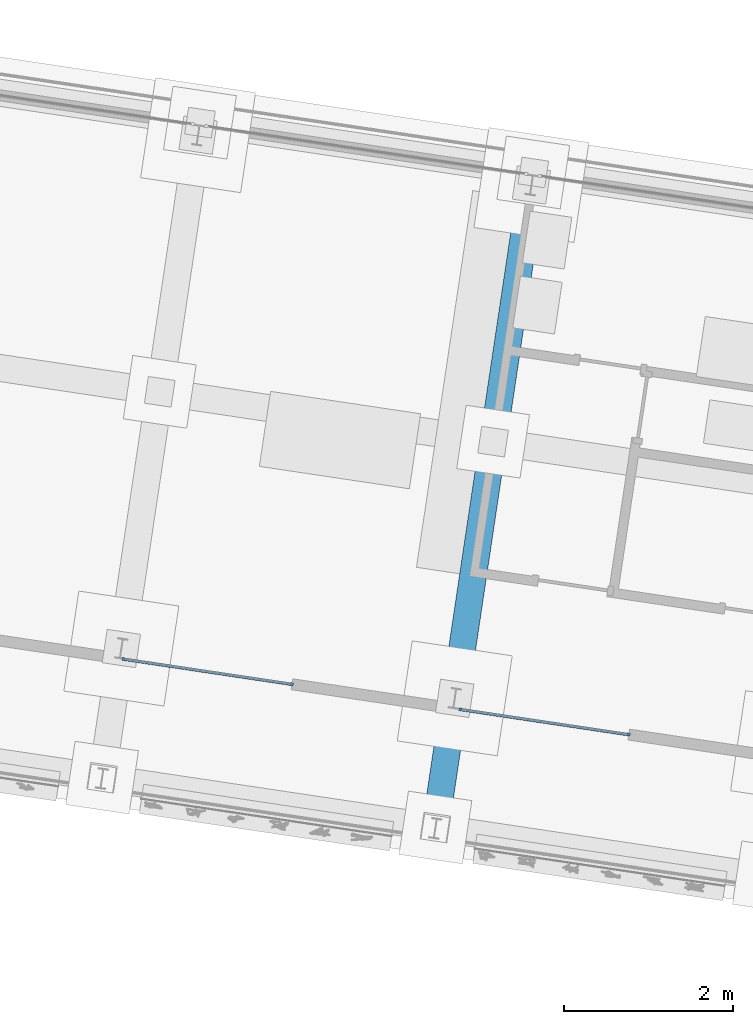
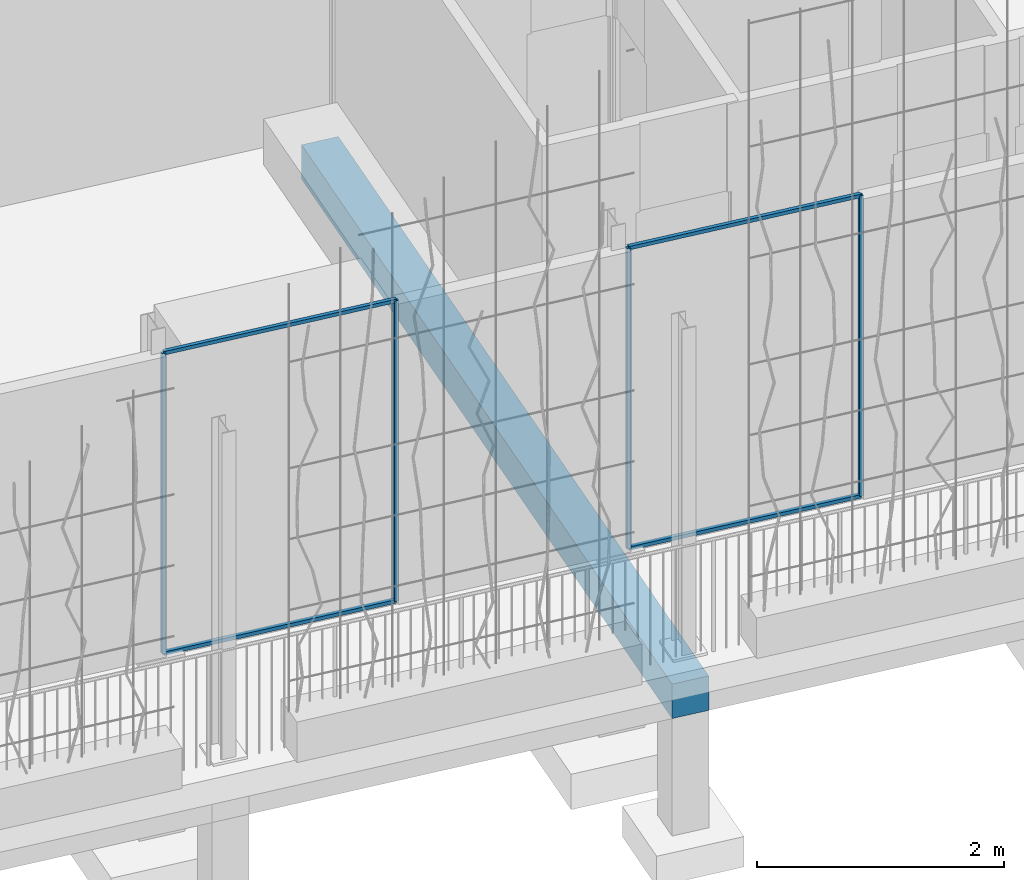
# One storey, part 64 of 142: 8 members, 1 beam, 1 element without a shape of its own.
"""IFC4 building model written with IfcOpenShell, lengths in metres."""

from ifc_helpers import new_model, si_unit, direction, frame, origin_with_axes, place, context, subcontext, project, spatial, polyline, rectangle, outline, extrude, material, material_profile, profile_set, profile_usage, type_object, element, aggregate, save


model = new_model("IFC4")

# Units and contexts
model_context = context("Model", 3, precision=1e-05, world=origin_with_axes(), true_north=direction((0.0, 1.0)))
body_context = subcontext(model_context, "Body", "Model", "MODEL_VIEW")
ifc_project = project(units=[si_unit("LENGTHUNIT", "METRE"), si_unit("AREAUNIT", "SQUARE_METRE"), si_unit("VOLUMEUNIT", "CUBIC_METRE")], contexts=[model_context])

# Site, building, storey
site_placement = place(None, origin_with_axes())
site = spatial("IfcSite", under=ifc_project, at=site_placement, Name="Lares · Rua das Mercês · artigo 4771")
building_placement = place(site_placement, frame((15.0, 9.7, 14.65), z_axis=(0.0, 0.0, 1.0), x_axis=(0.989015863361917, -0.147809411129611, 0.0)))
building = spatial("IfcBuilding", under=site, at=building_placement, Name="Casa Sobreposta")
storey_placement = place(building_placement, origin_with_axes())
storey = spatial("IfcBuildingStorey", under=building, at=storey_placement, Name="00 · Habitação e estacionamento", Elevation=14.65)

# Members
ifc_material_1 = material(Name="Aço pintado / Stahl lackiert", Category="steel")
ifc_material_profile = material_profile(ifc_material_1, rectangle(XDim=0.035, YDim=0.035))
ifc_profile_set = profile_set([ifc_material_profile], Name="R0.035")
ifc_profile_usage_1 = profile_usage(ifc_profile_set)
member_type = type_object("IfcMemberType", Name="R0.035 / steel", PredefinedType="NOTDEFINED", material=ifc_profile_set)
member_1_placement = place(storey_placement, frame((4.04266666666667, 0.0, 0.0), z_axis=(0.0, 0.0, 1.0), x_axis=(1.0, 0.0, 0.0)))
element("IfcMember", 1, at=member_1_placement, inside=storey, type_object=member_type, material=ifc_profile_usage_1, Name="Folha de correr sul 2 · montante", context=body_context, shape_type="SweptSolid", body=[
    extrude(rectangle(XDim=0.035, YDim=0.035), origin_with_axes(), (0.0, 0.0, 1.0), 2.968),
])
ifc_profile_usage_2 = profile_usage(ifc_profile_set)
member_2_placement = place(storey_placement, frame((6.064, 0.0, 0.0), z_axis=(0.0, 0.0, 1.0), x_axis=(1.0, 0.0, 0.0)))
element("IfcMember", 2, at=member_2_placement, inside=storey, type_object=member_type, material=ifc_profile_usage_2, Name="Folha de correr sul 2 · montante", context=body_context, shape_type="SweptSolid", body=[
    extrude(rectangle(XDim=0.035, YDim=0.035), origin_with_axes(), (0.0, 0.0, 1.0), 2.968),
])
ifc_profile_usage_3 = profile_usage(ifc_profile_set)
member_3_placement = place(storey_placement, frame((4.04266666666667, 0.0, 0.0), z_axis=(1.0, 0.0, 0.0), x_axis=(0.0, -1.0, 0.0)))
element("IfcMember", 3, at=member_3_placement, inside=storey, type_object=member_type, material=ifc_profile_usage_3, Name="Folha de correr sul 2 · travessa", context=body_context, shape_type="SweptSolid", body=[
    extrude(rectangle(XDim=0.035, YDim=0.035), origin_with_axes(), (0.0, 0.0, 1.0), 2.02133333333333),
])
ifc_profile_usage_4 = profile_usage(ifc_profile_set)
member_4_placement = place(storey_placement, frame((4.04266666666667, 0.0, 2.968), z_axis=(1.0, 0.0, 0.0), x_axis=(0.0, -1.0, 0.0)))
element("IfcMember", 4, at=member_4_placement, inside=storey, type_object=member_type, material=ifc_profile_usage_4, Name="Folha de correr sul 2 · travessa", context=body_context, shape_type="SweptSolid", body=[
    extrude(rectangle(XDim=0.035, YDim=0.035), origin_with_axes(), (0.0, 0.0, 1.0), 2.02133333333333),
])
ifc_profile_usage_5 = profile_usage(ifc_profile_set)
member_5_placement = place(storey_placement, frame((8.08533333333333, 0.0, 0.0), z_axis=(0.0, 0.0, 1.0), x_axis=(1.0, 0.0, 0.0)))
element("IfcMember", 5, at=member_5_placement, inside=storey, type_object=member_type, material=ifc_profile_usage_5, Name="Folha de correr sul 4 · montante", context=body_context, shape_type="SweptSolid", body=[
    extrude(rectangle(XDim=0.035, YDim=0.035), origin_with_axes(), (0.0, 0.0, 1.0), 2.968),
])
ifc_profile_usage_6 = profile_usage(ifc_profile_set)
member_6_placement = place(storey_placement, frame((10.1066666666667, 0.0, 0.0), z_axis=(0.0, 0.0, 1.0), x_axis=(1.0, 0.0, 0.0)))
element("IfcMember", 6, at=member_6_placement, inside=storey, type_object=member_type, material=ifc_profile_usage_6, Name="Folha de correr sul 4 · montante", context=body_context, shape_type="SweptSolid", body=[
    extrude(rectangle(XDim=0.035, YDim=0.035), origin_with_axes(), (0.0, 0.0, 1.0), 2.968),
])
ifc_profile_usage_7 = profile_usage(ifc_profile_set)
member_7_placement = place(storey_placement, frame((8.08533333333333, 0.0, 0.0), z_axis=(1.0, 0.0, 0.0), x_axis=(0.0, -1.0, 0.0)))
element("IfcMember", 7, at=member_7_placement, inside=storey, type_object=member_type, material=ifc_profile_usage_7, Name="Folha de correr sul 4 · travessa", context=body_context, shape_type="SweptSolid", body=[
    extrude(rectangle(XDim=0.035, YDim=0.035), origin_with_axes(), (0.0, 0.0, 1.0), 2.02133333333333),
])
ifc_profile_usage_8 = profile_usage(ifc_profile_set)
member_8_placement = place(storey_placement, frame((8.08533333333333, 0.0, 2.968), z_axis=(1.0, 0.0, 0.0), x_axis=(0.0, -1.0, 0.0)))
element("IfcMember", 8, at=member_8_placement, inside=storey, type_object=member_type, material=ifc_profile_usage_8, Name="Folha de correr sul 4 · travessa", context=body_context, shape_type="SweptSolid", body=[
    extrude(rectangle(XDim=0.035, YDim=0.035), origin_with_axes(), (0.0, 0.0, 1.0), 2.02133333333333),
])

# Assembly, beam
assembly_placement = place(storey_placement, origin_with_axes())
assembly = element("IfcElementAssembly", 9, at=assembly_placement, inside=storey, Name="Pódio · terraço, casa térrea e cisterna", ObjectType="CISTERN_PODIUM", PredefinedType="USERDEFINED")
ifc_material_2 = material(Name="Betão armado / Stahlbeton", Category="concrete")
beam_placement = place(assembly_placement, frame((0.0, 0.0, -0.59), z_axis=(0.0, 0.0, 1.0), x_axis=(1.0, 0.0, 0.0)))
beam = element("IfcBeam", 10, at=beam_placement, material=ifc_material_2, Name="Pódio suspenso · viga transversal", context=body_context, shape_type="SweptSolid", body=[
    extrude(outline(polyline([(8.16, -1.59), (8.16, 6.59), (7.84, 6.59), (7.84, -1.59), (8.16, -1.59)])), origin_with_axes(), (0.0, 0.0, 1.0), 0.34),
])
aggregate(assembly, [beam])

save(model, "model.ifc")
